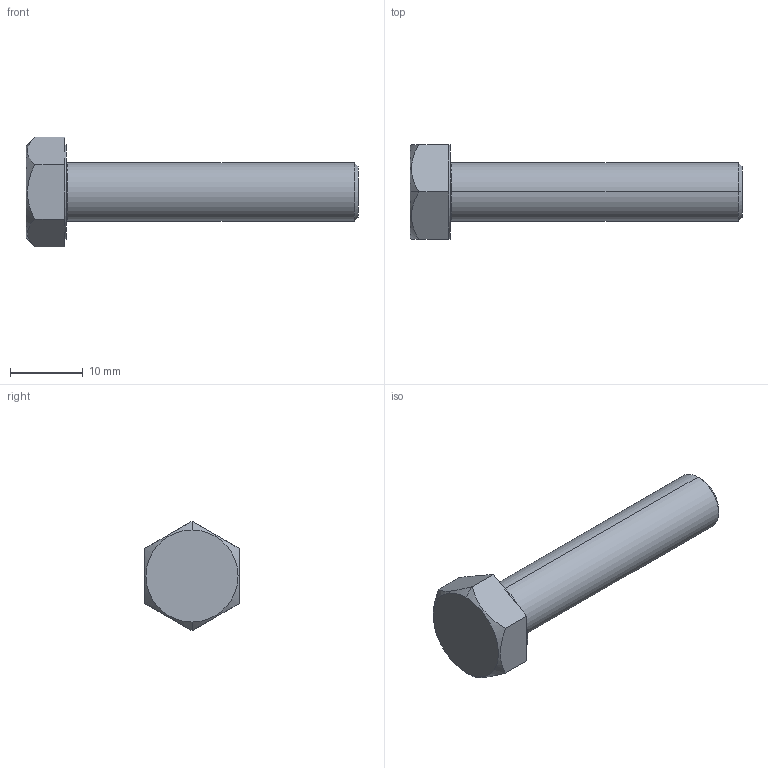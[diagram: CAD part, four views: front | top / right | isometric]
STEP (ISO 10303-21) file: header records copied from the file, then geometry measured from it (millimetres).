
FILE_DESCRIPTION (( 'STEP AP203' ), '1' );
FILE_NAME ('LGN-TD-M8x40.STEP', '2026-08-14T04:23:19', ( '' ), ( '' ), 'SwSTEP 2.0', 'SolidWorks 2020', '' );
FILE_SCHEMA (( 'CONFIG_CONTROL_DESIGN' ));
Length unit declared in the file: millimetre
Products named in the file (1): LGN-TD-M8x40
Bounding box: 45.5 x 13 x 15.01 mm (x, y, z)
Volume: 2802.5 mm3; surface area: 1519.6 mm2
Topology: 1 solids, 1 shells, 25 faces, 54 edges, 32 vertices
Faces by surface type: plane 15, cone 4, cylinder 4, torus 2
Entity records: 809 total; most frequent: CARTESIAN_POINT 182, DIRECTION 122, ORIENTED_EDGE 108, EDGE_CURVE 54, AXIS2_PLACEMENT_3D 48, VERTEX_POINT 32, EDGE_LOOP 26, LINE 26
